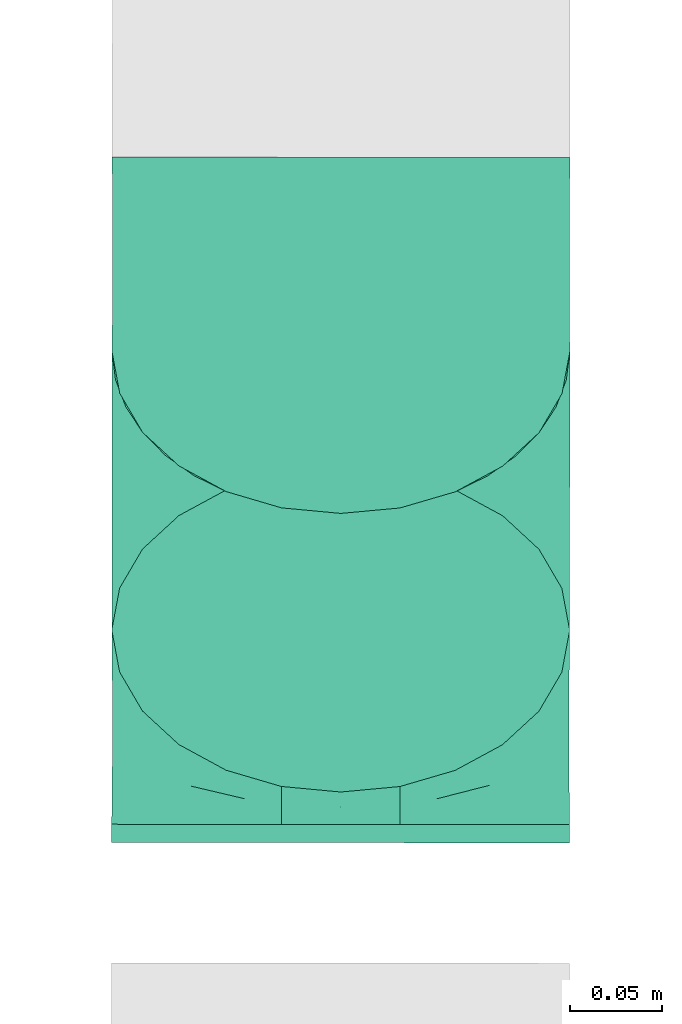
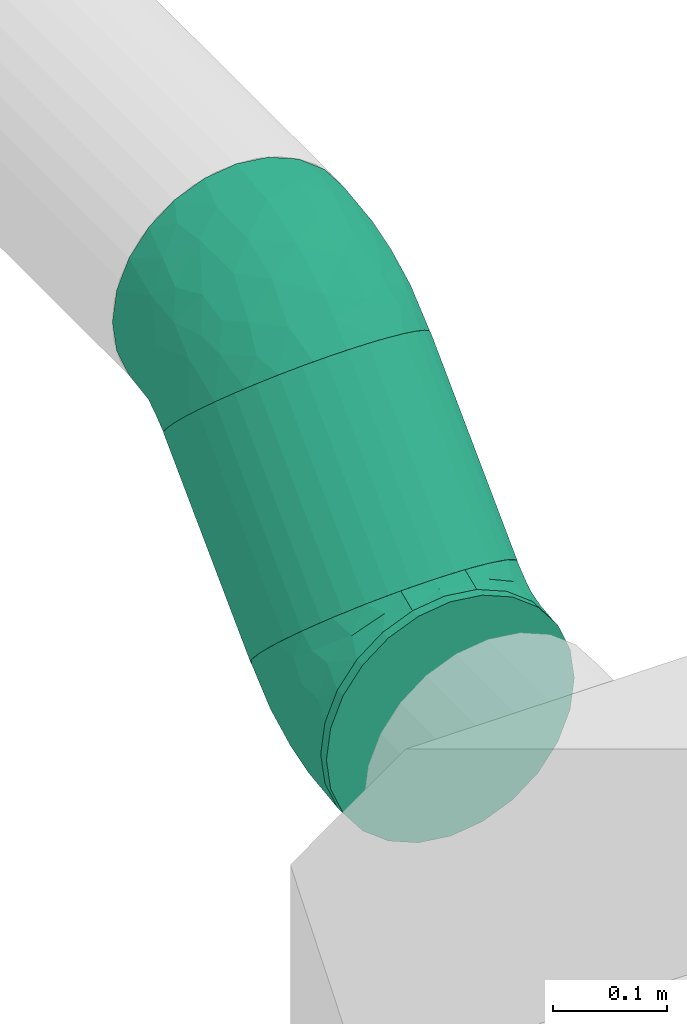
# One storey, part 18 of 63: 3 flow fittings, 1 flow segment.
"""IFC2X3 building model written with IfcOpenShell, lengths in millimetres."""

from ifc_helpers import new_model, entity, si_unit, converted_unit, derived_unit, direction, frame, origin_with_axes, origin_2d_with_axis, place, context, subcontext, project, spatial, hollow_circle, extrude, open_shell, surface_model, source, transform, mapped, type_object, element, save


model = new_model("IFC2X3")

# Units and contexts
model_context = context("Model", 3, precision=0.01, world=frame((0.0, 4.29681676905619e-09, 0.0)), true_north=direction((4.01073788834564e-13, 1.0)))
plan_context = context("Plan", 3, precision=0.01, world=frame((0.0, 4.29681676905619e-09, 0.0)), true_north=direction((4.01073788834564e-13, 1.0)))
body_context = subcontext(model_context, "Body", "Model", "MODEL_VIEW")
ifc_project = project(units=[converted_unit("PLANEANGLEUNIT", "DEGREE", entity("IfcPositiveLengthMeasure", 0.0174532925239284), si_unit("PLANEANGLEUNIT", "RADIAN"), dimensions=[0, 0, 0, 0, 0, 0, 0]), si_unit("AREAUNIT", "SQUARE_METRE"), si_unit("LENGTHUNIT", "METRE", prefix="MILLI"), si_unit("MASSUNIT", "GRAM", prefix="KILO"), si_unit("POWERUNIT", "WATT"), si_unit("PRESSUREUNIT", "PASCAL"), si_unit("FORCEUNIT", "NEWTON", prefix="KILO"), si_unit("ELECTRICVOLTAGEUNIT", "VOLT"), si_unit("ELECTRICCURRENTUNIT", "AMPERE"), si_unit("THERMODYNAMICTEMPERATUREUNIT", "DEGREE_CELSIUS"), si_unit("TIMEUNIT", "SECOND"), si_unit("VOLUMEUNIT", "CUBIC_METRE"), derived_unit("LINEARVELOCITYUNIT", [(si_unit("LENGTHUNIT", "METRE"), 1), (si_unit("TIMEUNIT", "SECOND"), -1)]), derived_unit("VOLUMETRICFLOWRATEUNIT", [(si_unit("VOLUMEUNIT", "CUBIC_METRE"), 1), (si_unit("TIMEUNIT", "SECOND"), -1)]), derived_unit("THERMALTRANSMITTANCEUNIT", [(si_unit("POWERUNIT", "WATT"), 1), (si_unit("THERMODYNAMICTEMPERATUREUNIT", "KELVIN"), -1), (si_unit("AREAUNIT", "SQUARE_METRE"), -1)]), derived_unit("SOUNDPRESSUREUNIT", [(si_unit("PRESSUREUNIT", "PASCAL"), 1)])], contexts=[model_context, plan_context])

# Site, building, storey
site_placement = place(None, frame((0.0, -4.29681676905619e-09, 0.0), z_axis=(0.0, 0.0, 1.0), x_axis=(1.0, 0.0, 0.0)))
site = spatial("IfcSite", under=ifc_project, at=site_placement, CompositionType="ELEMENT")
building_placement = place(site_placement, frame((0.0, 4.29681676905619e-09, 0.0), z_axis=(0.0, 0.0, 1.0), x_axis=(1.0, 0.0, 0.0)))
building = spatial("IfcBuilding", under=site, at=building_placement, Name="mc-building", CompositionType="ELEMENT")
storey_placement = place(building_placement, frame((0.0, 0.0, 210900.0), z_axis=(0.0, 0.0, 1.0), x_axis=(1.0, 0.0, 0.0)))
storey = spatial("IfcBuildingStorey", under=building, at=storey_placement, Name="Nivå F", CompositionType="ELEMENT", Elevation=210900.0)

# Flow fittings
duct_fitting_type_1 = type_object("IfcDuctFittingType", Name="magicirc_elbow_short_001", PredefinedType="BEND")
shared_shape_1 = source(origin_with_axes(), body_context, "Body", "SurfaceModel", [
    surface_model("IfcShellBasedSurfaceModel", [(-62.13204, 0.0, -125.0), (-62.13204, -32.35238, -120.74073), (-62.13204, 32.35238, -120.74073), (-62.13204, 62.5, -108.25318), (-62.13204, 88.38835, -88.38835), (-62.13204, 108.25318, -62.5), (-62.13204, 120.74073, -32.35238), (-62.13204, -62.5, -108.25318), (-62.13204, -88.38835, -88.38835), (-62.13204, -125.0, 0.0), (-62.13204, -108.25318, -62.5), (-62.13204, -120.74073, -32.35238), (-62.13204, 125.0, 0.0), (-62.13204, -120.74073, 32.35238), (-62.13204, 120.74073, 32.35238), (-62.13204, 108.25318, 62.5), (-62.13204, 32.35238, 120.74073), (-62.13204, 62.5, 108.25318), (-62.13204, 88.38835, 88.38835), (-62.13204, -88.38835, 88.38835), (-62.13204, -108.25318, 62.5), (-62.13204, -32.35238, 120.74073), (-62.13204, 0.0, 125.0), (-62.13204, -62.5, 108.25318), (-32.61257, 120.48054, -62.5), (-41.44261, 129.31057, -32.35238), (-44.45436, 132.32233, 0.0), (-41.44261, 129.31057, 32.35238), (-32.61257, 120.48054, 62.5), (-39.32094, -100.77129, 72.52866), (-25.3983, -115.58366, 40.92131), (-9.38975, -99.61313, 67.6303), (-40.71594, 99.20513, 81.38635), (-18.56602, 106.43398, 88.38835), (6.93461, -16.74165, 121.22697), (-29.92798, -19.88945, 122.8817), (-17.69423, -50.99343, 111.83063), (-28.63512, 12.8945, 124.68547), (-43.55871, 45.16564, 117.17454), (-19.1971, 46.34588, 119.14586), (20.11216, -107.05726, 35.36285), (37.22525, -89.79474, 60.1728), (-42.64489, 65.81413, 107.6176), (18.18237, -43.89615, 109.72868), (-48.14682, 116.23669, 52.46898), (11.13029, 29.36587, 124.68547), (-8.4822, -119.71595, 0.0), (17.31186, -111.89141, 0.0), (-27.44697, 77.92943, 103.54984), (-1.13628, 62.73759, 117.17454), (-0.26019, 88.12816, 108.25318), (29.58221, -71.41779, 87.09722), (2.27359, -83.55864, 84.32151), (46.20365, -49.09439, 98.73245), (43.10591, -104.06687, 0.0), (-28.63512, 12.89449, -124.68547), (-29.92797, -19.88945, -122.8817), (11.13029, 29.36586, -124.68547), (-19.1971, 46.34588, -119.14586), (-43.55871, 45.16564, -117.17454), (-35.69649, 74.51237, -103.54983), (-25.3983, -115.58366, -40.92131), (-48.14682, 116.23669, -52.46898), (-39.32094, -100.77129, -72.52866), (-16.38313, 76.69211, -107.6176), (-18.56602, 106.43398, -88.38835), (-0.26019, 88.12816, -108.25318), (-17.69423, -50.99343, -111.83063), (6.93461, -16.74165, -121.22697), (-1.13628, 62.73759, -117.17454), (48.5695, -23.54609, -111.83063), (35.22623, 7.0983, -122.8817), (-9.38975, -99.61313, -67.63031), (2.04406, -67.38589, -98.73245), (29.58221, -71.41778, -87.09723), (43.93399, 43.934, -125.0), (106.43399, -18.56599, 88.38835), (132.32235, -44.45434, 0.0), (21.05739, 66.81058, -120.74073), (88.12817, -0.26017, 108.25318), (66.81057, 21.05741, -120.74073), (106.43399, -18.56599, -88.38835), (88.12817, -0.26017, -108.25318), (129.31058, -41.44258, -32.35238), (120.48055, -32.61255, -62.5), (21.05739, 66.81058, 120.74073), (43.93399, 43.934, 125.0), (129.31058, -41.44258, 32.35238), (120.48055, -32.61255, 62.5), (66.81057, 21.05741, 120.74073), (-31.08246, -121.94188, 0.0), (35.22622, 7.09831, 122.8817), (-25.98217, -78.69805, 94.74512), (-3.43913, -67.17105, 100.02812), (77.07669, -63.79755, 67.6303), (61.9235, -89.5906, 35.66991), (-52.56496, 126.90301, 0.0), (99.68931, -63.77067, 40.92131), (48.5695, -23.54609, 111.83062), (99.06018, -43.45194, 72.52866), (74.0201, -37.27574, 94.74512), (108.20455, -64.2473, 0.0), (90.64979, -78.65413, 0.0), (66.87785, -91.36049, 0.0), (19.56361, -107.13664, -35.66991), (-41.35812, 98.93914, -81.38635), (-25.98217, -78.69805, -94.74512), (61.47949, -89.92235, -35.36285), (18.18239, -43.89616, -109.72867), (57.47721, -60.69254, -84.32152), (74.02009, -37.27574, -94.74513), (77.07669, -63.79755, -67.6303), (37.17223, -89.81669, -60.17279), (99.68931, -63.77066, -40.92131), (99.06018, -43.45194, -72.52866), (49.92893, -45.06527, -100.02812)], [open_shell([[[0, 1, 2]], [[3, 2, 4]], [[1, 5, 2]], [[4, 2, 5]], [[5, 1, 6]], [[7, 8, 1]], [[9, 1, 8]], [[10, 11, 8]], [[9, 8, 11]], [[9, 6, 1]], [[9, 12, 6]], [[12, 13, 14]], [[15, 14, 16]], [[16, 17, 18]], [[15, 16, 18]], [[16, 14, 19]], [[20, 19, 13]], [[19, 14, 13]], [[21, 22, 23]], [[19, 23, 22]], [[19, 22, 16]], [[9, 13, 12]], [[24, 25, 26]], [[26, 27, 28]], [[29, 30, 31]], [[32, 33, 28]], [[30, 20, 13]], [[34, 35, 36]], [[21, 35, 22]], [[21, 23, 36]], [[16, 22, 37]], [[38, 37, 39]], [[31, 40, 41]], [[42, 17, 38]], [[38, 17, 16]], [[43, 34, 36]], [[35, 37, 22]], [[14, 15, 44]], [[42, 32, 18]], [[29, 19, 20]], [[40, 31, 30]], [[37, 45, 39]], [[45, 37, 34]], [[40, 46, 47]], [[42, 18, 17]], [[33, 32, 48]], [[27, 44, 28]], [[48, 39, 49]], [[33, 48, 50]], [[44, 32, 28]], [[18, 32, 15]], [[36, 35, 21]], [[37, 35, 34]], [[41, 51, 52]], [[14, 44, 27]], [[32, 44, 15]], [[37, 38, 16]], [[42, 39, 48]], [[39, 42, 38]], [[42, 48, 32]], [[48, 49, 50]], [[45, 49, 39]], [[30, 29, 20]], [[53, 43, 51]], [[46, 40, 30]], [[47, 54, 40]], [[41, 52, 31]], [[0, 2, 55]], [[56, 1, 0]], [[57, 55, 58]], [[59, 60, 58]], [[10, 61, 11]], [[3, 4, 60]], [[62, 6, 25]], [[61, 10, 63]], [[64, 65, 66]], [[1, 56, 67]], [[8, 63, 10]], [[7, 1, 67]], [[56, 55, 68]], [[25, 24, 62]], [[69, 64, 66]], [[2, 3, 59]], [[59, 55, 2]], [[69, 57, 58]], [[70, 68, 71]], [[55, 57, 68]], [[55, 56, 0]], [[67, 56, 68]], [[57, 71, 68]], [[6, 62, 5]], [[60, 59, 3]], [[55, 59, 58]], [[64, 58, 60]], [[58, 64, 69]], [[61, 63, 72]], [[72, 73, 74]], [[75, 76, 77]], [[66, 26, 78]], [[78, 79, 75]], [[24, 66, 65]], [[66, 24, 26]], [[80, 81, 82]], [[80, 75, 81]], [[81, 83, 84]], [[83, 81, 77]], [[75, 77, 81]], [[26, 28, 50]], [[50, 85, 26]], [[50, 28, 33]], [[26, 85, 86]], [[87, 76, 88]], [[77, 76, 87]], [[79, 86, 89]], [[76, 75, 79]], [[86, 79, 26]], [[78, 26, 79]], [[90, 46, 30]], [[91, 45, 34]], [[23, 92, 36]], [[52, 93, 92]], [[94, 41, 95]], [[23, 19, 92]], [[96, 14, 27]], [[40, 95, 41]], [[96, 12, 14]], [[94, 95, 97]], [[40, 54, 95]], [[98, 89, 91]], [[99, 88, 76]], [[89, 98, 79]], [[88, 99, 97]], [[88, 97, 87]], [[98, 100, 79]], [[53, 94, 100]], [[97, 101, 87]], [[85, 50, 49]], [[41, 94, 51]], [[30, 13, 90]], [[26, 96, 27]], [[95, 102, 97]], [[95, 54, 103]], [[86, 91, 89]], [[86, 85, 45]], [[45, 85, 49]], [[34, 43, 98]], [[29, 92, 19]], [[79, 100, 76]], [[52, 92, 31]], [[95, 103, 102]], [[53, 100, 98]], [[99, 100, 94]], [[45, 91, 86]], [[98, 91, 34]], [[13, 9, 90]], [[101, 97, 102]], [[101, 77, 87]], [[92, 29, 31]], [[100, 99, 76]], [[97, 99, 94]], [[93, 36, 92]], [[51, 43, 93]], [[51, 93, 52]], [[43, 36, 93]], [[43, 53, 98]], [[94, 53, 51]], [[104, 46, 61]], [[78, 75, 57]], [[4, 105, 60]], [[73, 72, 106]], [[80, 82, 70]], [[61, 90, 11]], [[83, 77, 101]], [[106, 7, 67]], [[107, 102, 103]], [[104, 54, 47]], [[72, 104, 61]], [[106, 8, 7]], [[68, 108, 67]], [[6, 12, 96]], [[109, 110, 111]], [[96, 26, 25]], [[112, 72, 74]], [[113, 83, 101]], [[82, 81, 110]], [[113, 84, 83]], [[64, 105, 65]], [[4, 5, 105]], [[114, 81, 84]], [[110, 109, 115]], [[70, 82, 110]], [[66, 78, 69]], [[75, 80, 71]], [[111, 114, 113]], [[108, 68, 70]], [[113, 101, 102]], [[107, 104, 112]], [[107, 111, 113]], [[111, 107, 112]], [[71, 57, 75]], [[104, 47, 46]], [[96, 25, 6]], [[114, 110, 81]], [[107, 54, 104]], [[73, 106, 67]], [[63, 106, 72]], [[62, 105, 5]], [[65, 105, 24]], [[70, 71, 80]], [[90, 61, 46]], [[90, 9, 11]], [[72, 112, 104]], [[112, 74, 109]], [[105, 62, 24]], [[57, 69, 78]], [[64, 60, 105]], [[113, 114, 84]], [[110, 114, 111]], [[106, 63, 8]], [[115, 70, 110]], [[73, 108, 74]], [[102, 107, 113]], [[103, 54, 107]], [[112, 109, 111]], [[74, 108, 115]], [[74, 115, 109]], [[108, 70, 115]], [[108, 73, 67]]])]),
])
flow_fitting_1_placement = place(storey_placement, frame((523301.29712, 451343.80491, 3960.01264), z_axis=(0.999999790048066, -0.000647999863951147, 0.0), x_axis=(0.000647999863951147, 0.999999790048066, 0.0)))
element("IfcFlowFitting", 1, at=flow_fitting_1_placement, inside=storey, type_object=duct_fitting_type_1, Name="magicirc_elbow_short_001", context=body_context, shape_type="MappedRepresentation", body=[
    mapped(shared_shape_1, transform((0.0, 0.0, 0.0), scale=1.0)),
])
shared_shape_2 = source(origin_with_axes(), body_context, "Body", "SurfaceModel", [
    surface_model("IfcShellBasedSurfaceModel", [(-62.13204, 0.0, -125.0), (-62.13204, -32.35238, -120.74073), (-62.13204, 32.35238, -120.74073), (-62.13204, 62.5, -108.25318), (-62.13204, 88.38835, -88.38835), (-62.13204, 108.25318, -62.5), (-62.13204, 120.74073, -32.35238), (-62.13204, -62.5, -108.25318), (-62.13204, -88.38835, -88.38835), (-62.13204, -125.0, 0.0), (-62.13204, -108.25318, -62.5), (-62.13204, -120.74073, -32.35238), (-62.13204, 125.0, 0.0), (-62.13204, -120.74073, 32.35238), (-62.13204, 120.74073, 32.35238), (-62.13204, 108.25318, 62.5), (-62.13204, 32.35238, 120.74073), (-62.13204, 62.5, 108.25318), (-62.13204, 88.38835, 88.38835), (-62.13204, -88.38835, 88.38835), (-62.13204, -108.25318, 62.5), (-62.13204, -32.35238, 120.74073), (-62.13204, 0.0, 125.0), (-62.13204, -62.5, 108.25318), (-32.61257, 120.48054, -62.5), (-41.44261, 129.31057, -32.35238), (-44.45436, 132.32233, 0.0), (-41.44261, 129.31057, 32.35238), (-32.61257, 120.48054, 62.5), (-39.32094, -100.77129, 72.52866), (-25.3983, -115.58366, 40.92131), (-9.38975, -99.61313, 67.6303), (-40.71594, 99.20513, 81.38635), (-18.56602, 106.43398, 88.38835), (6.93461, -16.74165, 121.22697), (-29.92798, -19.88945, 122.8817), (-17.69423, -50.99343, 111.83063), (-28.63512, 12.8945, 124.68547), (-43.55871, 45.16564, 117.17454), (-19.1971, 46.34588, 119.14586), (20.11216, -107.05726, 35.36285), (37.22525, -89.79474, 60.1728), (-42.64489, 65.81413, 107.6176), (18.18237, -43.89615, 109.72868), (-48.14682, 116.23669, 52.46898), (11.13029, 29.36587, 124.68547), (-8.4822, -119.71595, 0.0), (17.31186, -111.89141, 0.0), (-27.44697, 77.92943, 103.54984), (-1.13628, 62.73759, 117.17454), (-0.26019, 88.12816, 108.25318), (29.58221, -71.41779, 87.09722), (2.27359, -83.55864, 84.32151), (46.20365, -49.09439, 98.73245), (43.10591, -104.06687, 0.0), (-28.63512, 12.89449, -124.68547), (-29.92797, -19.88945, -122.8817), (11.13029, 29.36586, -124.68547), (-19.1971, 46.34588, -119.14586), (-43.55871, 45.16564, -117.17454), (-35.69649, 74.51237, -103.54983), (-25.3983, -115.58366, -40.92131), (-48.14682, 116.23669, -52.46898), (-39.32094, -100.77129, -72.52866), (-16.38313, 76.69211, -107.6176), (-18.56602, 106.43398, -88.38835), (-0.26019, 88.12816, -108.25318), (-17.69423, -50.99343, -111.83063), (6.93461, -16.74165, -121.22697), (-1.13628, 62.73759, -117.17454), (48.5695, -23.54609, -111.83063), (35.22623, 7.0983, -122.8817), (-9.38975, -99.61313, -67.63031), (2.04406, -67.38589, -98.73245), (29.58221, -71.41778, -87.09723), (43.93399, 43.934, -125.0), (106.43399, -18.56599, 88.38835), (132.32235, -44.45434, 0.0), (21.05739, 66.81058, -120.74073), (88.12817, -0.26017, 108.25318), (66.81057, 21.05741, -120.74073), (106.43399, -18.56599, -88.38835), (88.12817, -0.26017, -108.25318), (129.31058, -41.44258, -32.35238), (120.48055, -32.61255, -62.5), (21.05739, 66.81058, 120.74073), (43.93399, 43.934, 125.0), (129.31058, -41.44258, 32.35238), (120.48055, -32.61255, 62.5), (66.81057, 21.05741, 120.74073), (-31.08246, -121.94188, 0.0), (35.22622, 7.09831, 122.8817), (77.07669, -63.79755, 67.6303), (61.9235, -89.5906, 35.66991), (-52.56496, 126.90301, 0.0), (99.68931, -63.77067, 40.92131), (48.5695, -23.54609, 111.83062), (99.06018, -43.45194, 72.52866), (74.0201, -37.27574, 94.74512), (108.20455, -64.2473, 0.0), (90.64979, -78.65413, 0.0), (66.87785, -91.36049, 0.0), (-3.43913, -67.17105, 100.02812), (19.56361, -107.13664, -35.66991), (-41.35812, 98.93914, -81.38635), (-25.98217, -78.69805, -94.74512), (61.47949, -89.92235, -35.36285), (18.18239, -43.89616, -109.72867), (57.47721, -60.69254, -84.32152), (74.02009, -37.27574, -94.74513), (77.07669, -63.79755, -67.6303), (37.17223, -89.81669, -60.17279), (99.68931, -63.77066, -40.92131), (99.06018, -43.45194, -72.52866), (49.92893, -45.06527, -100.02812), (-25.98217, -78.69805, 94.74512)], [open_shell([[[0, 1, 2]], [[3, 2, 4]], [[1, 5, 2]], [[4, 2, 5]], [[5, 1, 6]], [[7, 8, 1]], [[9, 1, 8]], [[10, 11, 8]], [[9, 8, 11]], [[9, 6, 1]], [[9, 12, 6]], [[12, 13, 14]], [[15, 14, 16]], [[16, 17, 18]], [[15, 16, 18]], [[16, 14, 19]], [[20, 19, 13]], [[19, 14, 13]], [[21, 22, 23]], [[19, 23, 22]], [[19, 22, 16]], [[9, 13, 12]], [[24, 25, 26]], [[26, 27, 28]], [[29, 30, 31]], [[32, 33, 28]], [[30, 20, 13]], [[34, 35, 36]], [[21, 35, 22]], [[21, 23, 36]], [[16, 22, 37]], [[38, 37, 39]], [[31, 40, 41]], [[42, 17, 38]], [[38, 17, 16]], [[43, 34, 36]], [[35, 37, 22]], [[14, 15, 44]], [[42, 32, 18]], [[29, 19, 20]], [[40, 31, 30]], [[37, 45, 39]], [[45, 37, 34]], [[40, 46, 47]], [[42, 18, 17]], [[33, 32, 48]], [[27, 44, 28]], [[48, 39, 49]], [[33, 48, 50]], [[44, 32, 28]], [[18, 32, 15]], [[36, 35, 21]], [[37, 35, 34]], [[41, 51, 52]], [[14, 44, 27]], [[32, 44, 15]], [[37, 38, 16]], [[42, 39, 48]], [[39, 42, 38]], [[42, 48, 32]], [[48, 49, 50]], [[45, 49, 39]], [[30, 29, 20]], [[53, 43, 51]], [[46, 40, 30]], [[47, 54, 40]], [[41, 52, 31]], [[0, 2, 55]], [[56, 1, 0]], [[57, 55, 58]], [[59, 60, 58]], [[10, 61, 11]], [[3, 4, 60]], [[62, 6, 25]], [[61, 10, 63]], [[64, 65, 66]], [[1, 56, 67]], [[8, 63, 10]], [[7, 1, 67]], [[56, 55, 68]], [[25, 24, 62]], [[69, 64, 66]], [[2, 3, 59]], [[59, 55, 2]], [[69, 57, 58]], [[70, 68, 71]], [[55, 57, 68]], [[55, 56, 0]], [[67, 56, 68]], [[57, 71, 68]], [[6, 62, 5]], [[60, 59, 3]], [[55, 59, 58]], [[64, 58, 60]], [[58, 64, 69]], [[61, 63, 72]], [[72, 73, 74]], [[75, 76, 77]], [[66, 26, 78]], [[78, 79, 75]], [[24, 66, 65]], [[66, 24, 26]], [[80, 81, 82]], [[80, 75, 81]], [[81, 83, 84]], [[83, 81, 77]], [[75, 77, 81]], [[26, 28, 50]], [[50, 85, 26]], [[50, 28, 33]], [[26, 85, 86]], [[87, 76, 88]], [[77, 76, 87]], [[79, 86, 89]], [[76, 75, 79]], [[86, 79, 26]], [[78, 26, 79]], [[90, 46, 30]], [[91, 45, 34]], [[92, 41, 93]], [[94, 14, 27]], [[40, 93, 41]], [[94, 12, 14]], [[92, 93, 95]], [[40, 54, 93]], [[96, 89, 91]], [[97, 88, 76]], [[89, 96, 79]], [[88, 97, 95]], [[88, 95, 87]], [[96, 98, 79]], [[53, 92, 98]], [[95, 99, 87]], [[85, 50, 49]], [[41, 92, 51]], [[30, 13, 90]], [[26, 94, 27]], [[93, 100, 95]], [[93, 54, 101]], [[86, 91, 89]], [[86, 85, 45]], [[45, 85, 49]], [[34, 43, 96]], [[79, 98, 76]], [[93, 101, 100]], [[53, 98, 96]], [[97, 98, 92]], [[45, 91, 86]], [[96, 91, 34]], [[13, 9, 90]], [[99, 95, 100]], [[99, 77, 87]], [[98, 97, 76]], [[95, 97, 92]], [[51, 43, 102]], [[51, 102, 52]], [[43, 36, 102]], [[43, 53, 96]], [[92, 53, 51]], [[103, 46, 61]], [[78, 75, 57]], [[4, 104, 60]], [[73, 72, 105]], [[80, 82, 70]], [[61, 90, 11]], [[83, 77, 99]], [[105, 7, 67]], [[106, 100, 101]], [[103, 54, 47]], [[72, 103, 61]], [[105, 8, 7]], [[68, 107, 67]], [[6, 12, 94]], [[108, 109, 110]], [[94, 26, 25]], [[111, 72, 74]], [[112, 83, 99]], [[82, 81, 109]], [[112, 84, 83]], [[64, 104, 65]], [[4, 5, 104]], [[113, 81, 84]], [[109, 108, 114]], [[70, 82, 109]], [[66, 78, 69]], [[75, 80, 71]], [[110, 113, 112]], [[107, 68, 70]], [[112, 99, 100]], [[106, 103, 111]], [[106, 110, 112]], [[110, 106, 111]], [[71, 57, 75]], [[103, 47, 46]], [[94, 25, 6]], [[113, 109, 81]], [[106, 54, 103]], [[73, 105, 67]], [[63, 105, 72]], [[62, 104, 5]], [[65, 104, 24]], [[70, 71, 80]], [[90, 61, 46]], [[90, 9, 11]], [[72, 111, 103]], [[111, 74, 108]], [[104, 62, 24]], [[57, 69, 78]], [[64, 60, 104]], [[112, 113, 84]], [[109, 113, 110]], [[105, 63, 8]], [[114, 70, 109]], [[73, 107, 74]], [[100, 106, 112]], [[101, 54, 106]], [[111, 108, 110]], [[74, 107, 114]], [[74, 114, 108]], [[107, 70, 114]], [[107, 73, 67]], [[23, 115, 36]], [[52, 102, 115]], [[23, 19, 115]], [[29, 115, 19]], [[52, 115, 31]], [[115, 29, 31]], [[102, 36, 115]]])]),
])
flow_fitting_2_placement = place(storey_placement, frame((523301.45257, 451583.79216, 4200.0), z_axis=(-0.999999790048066, 0.000647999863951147, -3.79470760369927e-19), x_axis=(0.000458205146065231, 0.707106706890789, 0.707106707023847)))
element("IfcFlowFitting", 2, at=flow_fitting_2_placement, inside=storey, type_object=duct_fitting_type_1, Name="magicirc_elbow_short_001", context=body_context, shape_type="MappedRepresentation", body=[
    mapped(shared_shape_2, transform((0.0, 0.0, 0.0), scale=1.0)),
])
duct_fitting_type_2 = type_object("IfcDuctFittingType", Name="magicirc_plug_001", PredefinedType="OBSTRUCTION")
shared_shape_3 = source(origin_with_axes(), body_context, "Body", "SurfaceModel", [
    surface_model("IfcShellBasedSurfaceModel", [(0.0, 32.35238, -120.74073), (0.0, 0.0, -125.0), (0.0, 108.25318, -62.5), (0.0, 62.5, -108.25318), (0.0, 88.38835, -88.38835), (0.0, 120.74073, -32.35238), (0.0, -32.35238, -120.74073), (0.0, -62.5, -108.25318), (0.0, -88.38835, -88.38835), (0.0, -125.0, 0.0), (0.0, -108.25318, -62.5), (0.0, -120.74073, -32.35238), (0.0, 125.0, 0.0), (0.0, 108.25318, 62.5), (0.0, 120.74073, 32.35238), (0.0, 88.38835, 88.38835), (0.0, 32.35238, 120.74073), (0.0, 62.5, 108.25318), (0.0, -32.35238, 120.74073), (0.0, -88.38835, 88.38835), (0.0, -62.5, 108.25318), (0.0, -108.25318, 62.5), (0.0, -120.74073, 32.35238), (0.0, 0.0, 125.0), (10.0, 88.38835, -88.38835), (10.0, 0.0, -125.0), (10.0, 32.35238, -120.74073), (10.0, 62.5, -108.25318), (10.0, 108.25318, -62.5), (10.0, 120.74073, -32.35238), (10.0, -32.35238, -120.74073), (10.0, -88.38835, -88.38835), (10.0, -62.5, -108.25318), (10.0, -125.0, 0.0), (10.0, -120.74073, -32.35238), (10.0, -108.25318, -62.5), (10.0, -108.25318, 62.5), (10.0, 88.38835, 88.38835), (10.0, 125.0, 0.0), (10.0, 120.74073, 32.35238), (10.0, 108.25318, 62.5), (10.0, 62.5, 108.25318), (10.0, 32.35238, 120.74073), (10.0, -32.35238, 120.74073), (10.0, -62.5, 108.25318), (10.0, -88.38835, 88.38835), (10.0, -120.74073, 32.35238), (10.0, 0.0, 125.0)], [open_shell([[[0, 1, 2]], [[3, 0, 4]], [[1, 5, 2]], [[4, 0, 2]], [[6, 5, 1]], [[7, 8, 6]], [[9, 6, 8]], [[10, 11, 8]], [[9, 8, 11]], [[9, 5, 6]], [[9, 12, 5]], [[13, 14, 12]], [[15, 13, 12]], [[16, 17, 15]], [[12, 16, 15]], [[9, 18, 16]], [[19, 20, 21]], [[21, 9, 22]], [[9, 21, 20]], [[9, 20, 18]], [[16, 18, 23]], [[12, 9, 16]], [[24, 25, 26]], [[24, 26, 27]], [[28, 29, 25]], [[28, 25, 24]], [[25, 29, 30]], [[30, 31, 32]], [[31, 30, 33]], [[31, 34, 35]], [[34, 31, 33]], [[30, 29, 33]], [[29, 36, 33]], [[37, 38, 39]], [[37, 39, 40]], [[37, 41, 42]], [[38, 37, 43]], [[43, 37, 42]], [[36, 44, 45]], [[46, 33, 36]], [[38, 44, 36]], [[38, 43, 44]], [[47, 43, 42]], [[36, 29, 38]], [[46, 9, 33]], [[36, 22, 46]], [[19, 45, 44]], [[36, 45, 21]], [[20, 44, 43]], [[36, 21, 22]], [[22, 9, 46]], [[18, 47, 23]], [[18, 20, 43]], [[19, 44, 20]], [[19, 21, 45]], [[47, 18, 43]], [[41, 16, 42]], [[37, 17, 41]], [[13, 40, 39]], [[37, 40, 15]], [[14, 39, 38]], [[41, 17, 16]], [[16, 23, 42]], [[14, 13, 39]], [[15, 40, 13]], [[15, 17, 37]], [[12, 14, 38]], [[42, 23, 47]], [[29, 12, 38]], [[28, 5, 29]], [[4, 24, 27]], [[28, 24, 2]], [[3, 27, 26]], [[28, 2, 5]], [[5, 12, 29]], [[0, 25, 1]], [[0, 3, 26]], [[4, 27, 3]], [[4, 2, 24]], [[25, 0, 26]], [[6, 30, 32]], [[7, 32, 31]], [[11, 35, 34]], [[9, 34, 33]], [[31, 35, 8]], [[32, 7, 6]], [[6, 1, 30]], [[8, 35, 10]], [[11, 10, 35]], [[9, 11, 34]], [[8, 7, 31]], [[30, 1, 25]]])]),
])
flow_fitting_3_placement = place(storey_placement, frame((523301.25687, 451281.67288, 3960.01264), z_axis=(0.999999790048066, -0.000647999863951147, 0.0), x_axis=(-0.000647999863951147, -0.999999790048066, 0.0)))
element("IfcFlowFitting", 3, at=flow_fitting_3_placement, inside=storey, type_object=duct_fitting_type_2, Name="magicirc_plug_001", context=body_context, shape_type="MappedRepresentation", body=[
    mapped(shared_shape_3, transform((0.0, 0.0, 0.0), scale=1.0)),
])

# Flow segment
duct_segment_type = type_object("IfcDuctSegmentType", Name="KK002T - Spiro kanaler, Forsinket stål, korte bend", PredefinedType="RIGIDSEGMENT")
shared_shape_4 = source(origin_with_axes(), body_context, "Body", "SweptSolid", [
    extrude(hollow_circle(Radius=125.0, WallThickness=2.0, at=origin_2d_with_axis()), frame((0.0, 0.0, 0.0), z_axis=(1.0, 0.0, 0.0), x_axis=(0.0, 1.0, 0.0)), (0.0, 0.0, 1.0), 215.1),
])
flow_segment_placement = place(storey_placement, frame((523301.32558, 451387.73889, 4003.94662999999), z_axis=(-0.00045799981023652, -0.707106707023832, 0.707106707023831), x_axis=(0.000457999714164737, 0.707106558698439, 0.707106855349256)))
element("IfcFlowSegment", 4, at=flow_segment_placement, inside=storey, type_object=duct_segment_type, Name="KK002T - Spiro kanaler, Forsinket stål, korte bend", context=body_context, shape_type="MappedRepresentation", body=[
    mapped(shared_shape_4, transform((0.0, 0.0, 0.0), scale=1.0)),
])

save(model, "model.ifc")
